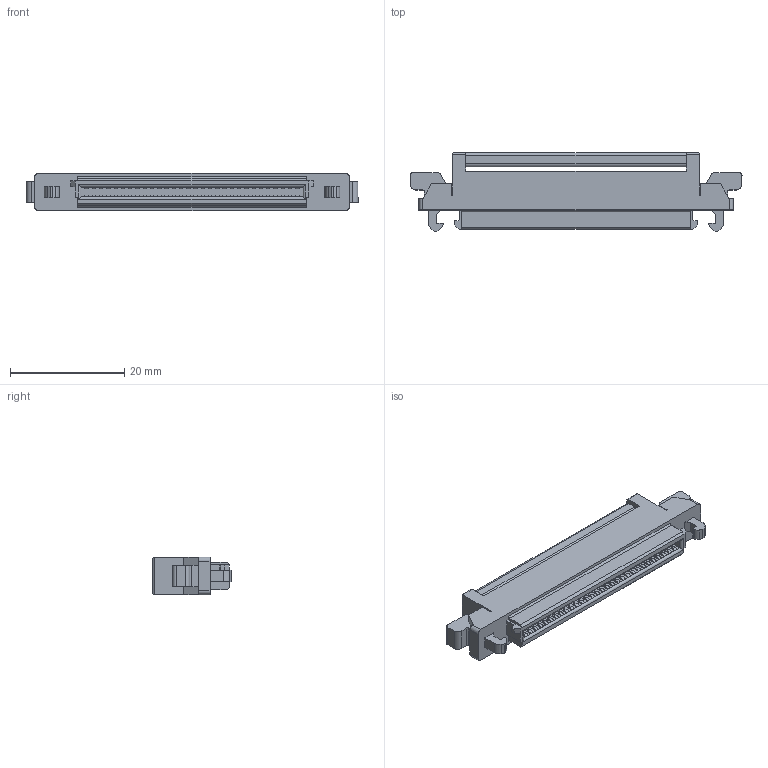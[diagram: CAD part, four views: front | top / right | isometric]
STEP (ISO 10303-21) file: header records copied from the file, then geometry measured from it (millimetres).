
FILE_DESCRIPTION(('Creo Elements/Direct Modeling STEP Export'),'2;1');
FILE_NAME('P39478_8925E-060-179-F.stp','2019-05-17T13:23:33',(''),(''),'Creo Elements/Direct Modeling STEP processor for AP214 (Solid Model)','Creo Elements/Direct Modeling 19.0F 14-Feb-2017 (C) Parametric Technology GmbH','');
FILE_SCHEMA(('AUTOMOTIVE_DESIGN { 1 0 10303 214 1 1 1 1 }'));
Length unit declared in the file: millimetre
Products named in the file (3): 8925E-060-179-F-143890.PRT; 8925E-060-179-F-144220.ASM; P39478_8925E-060-179-F.stp
Assembly tree (2 placements, depth 3):
  P39478_8925E-060-179-F.stp
    8925E-060-179-F-144220.ASM
      8925E-060-179-F-143890.PRT
Bounding box: 58.04 x 13.7 x 6.6 mm (x, y, z)
Volume: 3408.1 mm3; surface area: 2879.2 mm2
Topology: 1 solids, 1 shells, 444 faces, 1302 edges, 862 vertices
Faces by surface type: plane 290, cylinder 154
Entity records: 14806 total; most frequent: CARTESIAN_POINT 2667, ORIENTED_EDGE 2604, DIRECTION 2480, EDGE_CURVE 1302, VECTOR 1002, LINE 1002, VERTEX_POINT 862, AXIS2_PLACEMENT_3D 739
